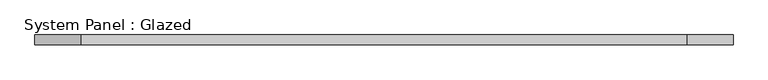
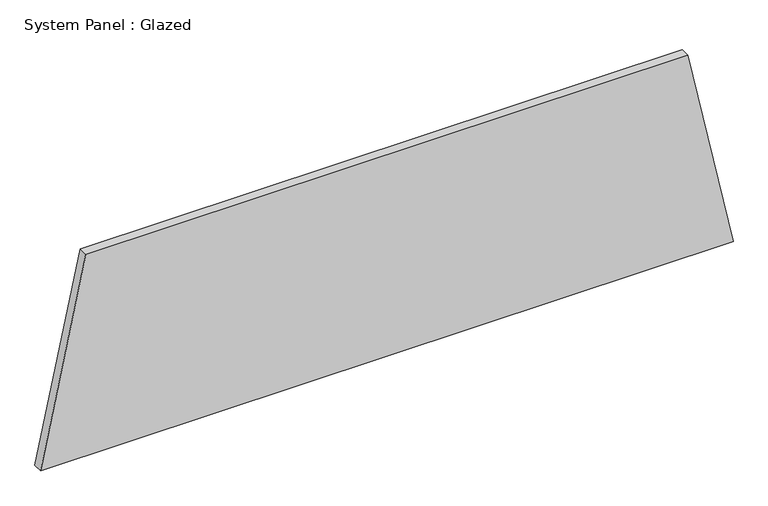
"""IFC4 building model written with IfcOpenShell, lengths in millimetres: plate geometry, System Panel : Glazed."""

from ifc_helpers import new_model, si_unit, frame, origin, place, context, project, spatial, polyline, outline, extrude, source, transform, mapped, element, save


def system_panel_glazed_008d1abf(model_context):
    return source(origin(), model_context, "Body", "SweptSolid", [
        extrude(outline(polyline([(0.0, -908.2247887), (0.0, 908.2247887), (558.1731024, 789.5553138), (558.1731024, -789.5553138), (0.0, -908.2247887)])), frame((0.0, -44.45, 0.0), z_axis=(0.0, 1.0, 0.0), x_axis=(0.0, 0.0, 1.0)), (0.0, 0.0, 1.0), 25.4),
    ])


if __name__ == "__main__":
    model = new_model("IFC4")
    model_context = context("Model", 3, world=origin())
    ifc_project = project(units=[si_unit("LENGTHUNIT", "METRE", prefix="MILLI")], contexts=[model_context])
    site = spatial("IfcSite", under=ifc_project)
    building = spatial("IfcBuilding", under=site)
    placement = place(None, origin())
    system_panel_glazed_shape = system_panel_glazed_008d1abf(model_context)
    element("IfcPlate", 1, ObjectType="System Panel : Glazed", at=placement, inside=building, context=model_context, shape_type="MappedRepresentation", body=[
        mapped(system_panel_glazed_shape, transform((0.0, 0.0, 0.0), x_axis=(1.0, 0.0, 0.0), y_axis=(0.0, 1.0, 0.0), z_axis=(0.0, 0.0, 1.0))),
    ])
    save(model, "model.ifc")
